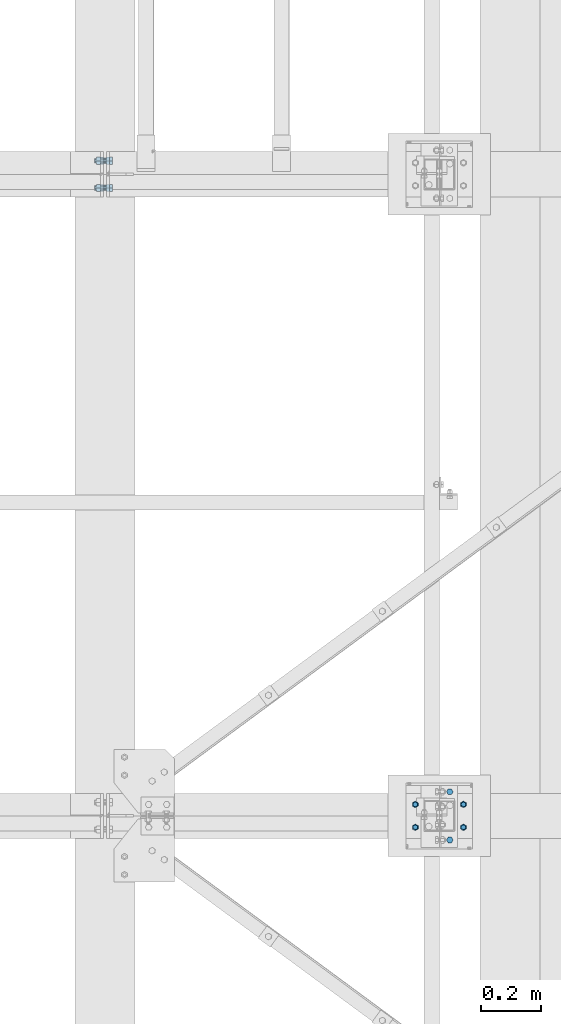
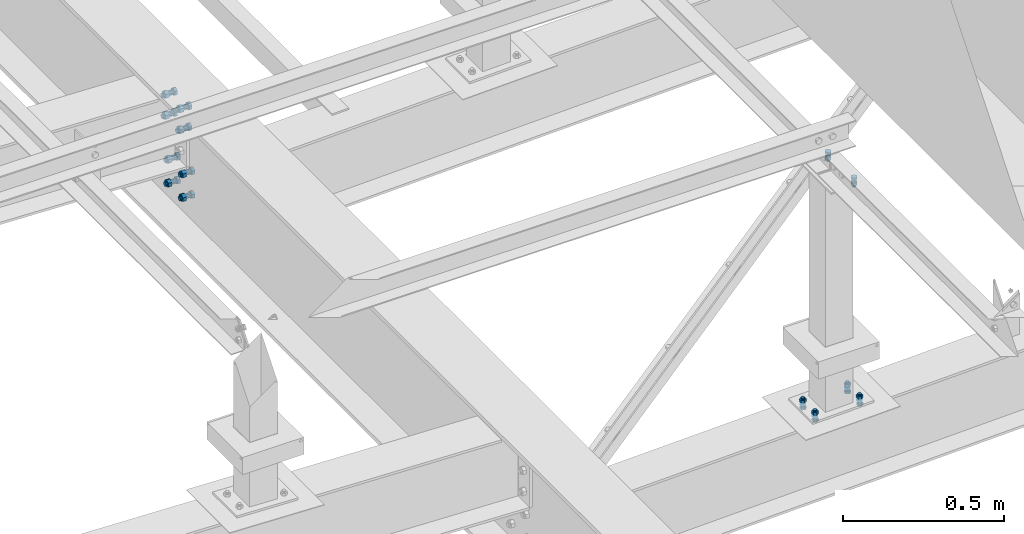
# One storey, part 54 of 3134: 7 mechanical fasteners, 4 elements without a shape of their own.
"""IFC2X3 building model written with IfcOpenShell, lengths in millimetres."""

from ifc_helpers import new_model, si_unit, frame, origin_with_axes, place, context, subcontext, project, spatial, faceted_brep, source, transform, mapped, material, type_object, element, aggregate, save


model = new_model("IFC2X3")

# Units and contexts
model_context = context("Model", 3, precision=1e-05, world=origin_with_axes())
body_context = subcontext(model_context, "Body", "Model", "MODEL_VIEW")
ifc_project = project(units=[si_unit("LENGTHUNIT", "METRE", prefix="MILLI"), si_unit("AREAUNIT", "SQUARE_METRE"), si_unit("VOLUMEUNIT", "CUBIC_METRE"), si_unit("MASSUNIT", "GRAM", prefix="KILO"), si_unit("TIMEUNIT", "SECOND"), si_unit("PLANEANGLEUNIT", "RADIAN"), si_unit("SOLIDANGLEUNIT", "STERADIAN"), si_unit("THERMODYNAMICTEMPERATUREUNIT", "DEGREE_CELSIUS"), si_unit("LUMINOUSINTENSITYUNIT", "LUMEN")], contexts=[model_context])

# Site, building, storey
site_placement = place(None, origin_with_axes())
site = spatial("IfcSite", under=ifc_project, at=site_placement, CompositionType="ELEMENT")
building_placement = place(site_placement, origin_with_axes())
building = spatial("IfcBuilding", under=site, at=building_placement, Name="Undefined", CompositionType="ELEMENT")
storey_placement = place(building_placement, origin_with_axes())
storey = spatial("IfcBuildingStorey", under=building, at=storey_placement, Name="Undefined", CompositionType="ELEMENT", Elevation=0.0)

# Assembly, mechanical fastener
assembly_1_placement = place(storey_placement, origin_with_axes())
assembly_1 = element("IfcElementAssembly", 1, at=assembly_1_placement, inside=storey, AssemblyPlace="NOTDEFINED", PredefinedType="RIGID_FRAME")
ifc_material = material(Name="8.8")
mechanical_fastener_type = type_object("IfcMechanicalFastenerType", Name="Bolt assembly")
shared_shape_1 = source(origin_with_axes(), body_context, "Body", "Brep", [
    faceted_brep([(10.9696551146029, -14.0, 0.0), (5.48482755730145, -14.0, 9.5), (-5.48482755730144, -14.0, 9.5), (-10.9696551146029, -14.0, 1.34339530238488e-15), (-5.48482755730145, -14.0, -9.5), (5.48482755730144, -14.0, -9.50000000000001), (5.48482755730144, -6.0, -9.50000000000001), (-5.48482755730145, -6.0, -9.5), (-10.9696551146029, -6.0, 1.34339530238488e-15), (-5.48482755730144, -6.0, 9.5), (5.48482755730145, -6.0, 9.5), (10.9696551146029, -6.0, 0.0), (6.0, -6.0, 0.0), (5.19615242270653, -6.0, 3.00000000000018), (2.99999999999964, -6.0, 5.19615242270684), (-6.21801588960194e-13, -6.0, 6.0), (-3.00000000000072, -6.0, 5.19615242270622), (-5.19615242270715, -6.0, 2.9999999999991), (-6.0, -6.0, -1.24360317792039e-12), (-5.19615242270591, -6.0, -3.00000000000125), (-2.99999999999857, -6.0, -5.19615242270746), (1.85874342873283e-12, -6.0, -6.0), (3.00000000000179, -6.0, -5.1961524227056), (5.19615242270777, -6.0, -2.99999999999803), (5.19615242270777, 24.0, -2.99999999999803), (3.00000000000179, 24.0, -5.1961524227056), (1.85874342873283e-12, 24.0, -6.0), (-2.99999999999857, 24.0, -5.19615242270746), (-5.19615242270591, 24.0, -3.00000000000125), (-6.0, 24.0, -1.24360317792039e-12), (-5.19615242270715, 24.0, 2.9999999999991), (-3.00000000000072, 24.0, 5.19615242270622), (-6.21801588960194e-13, 24.0, 6.0), (2.99999999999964, 24.0, 5.19615242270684), (5.19615242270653, 24.0, 3.00000000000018), (6.0, 24.0, 0.0), (10.9696551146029, 6.00000000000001, 0.0), (5.48482755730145, 6.00000000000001, 9.5), (-5.48482755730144, 6.00000000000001, 9.5), (-10.9696551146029, 6.00000000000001, 1.34339530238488e-15), (-5.48482755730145, 6.00000000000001, -9.5), (5.48482755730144, 6.00000000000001, -9.50000000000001), (5.48482755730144, 16.0, -9.50000000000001), (-5.48482755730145, 16.0, -9.5), (-10.9696551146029, 16.0, 1.34339530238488e-15), (-5.48482755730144, 16.0, 9.5), (5.48482755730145, 16.0, 9.5), (10.9696551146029, 16.0, 0.0)], [[[0, 1, 2, 3, 4, 5]], [[6, 7, 8, 9, 10, 11]], [[0, 11, 10, 1]], [[1, 10, 9, 2]], [[2, 9, 8, 3]], [[3, 8, 7, 4]], [[4, 7, 6, 5]], [[5, 6, 11, 0]], [[12, 13, 14, 15, 16, 17, 18, 19, 20, 21, 22, 23]], [[24, 25, 26, 27, 28, 29, 30, 31, 32, 33, 34, 35]], [[12, 35, 34, 13]], [[13, 34, 33, 14]], [[14, 33, 32, 15]], [[15, 32, 31, 16]], [[16, 31, 30, 17]], [[17, 30, 29, 18]], [[18, 29, 28, 19]], [[19, 28, 27, 20]], [[20, 27, 26, 21]], [[21, 26, 25, 22]], [[22, 25, 24, 23]], [[23, 24, 35, 12]], [[36, 37, 38, 39, 40, 41]], [[42, 43, 44, 45, 46, 47]], [[36, 47, 46, 37]], [[37, 46, 45, 38]], [[38, 45, 44, 39]], [[39, 44, 43, 40]], [[40, 43, 42, 41]], [[41, 42, 47, 36]]]),
    faceted_brep([(7.0, -0.1, 0.0), (6.06217782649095, -0.1, 3.50000000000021), (3.49999999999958, -0.1, 6.06217782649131), (-7.25435187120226e-13, -0.1, 7.0), (-3.50000000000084, -0.1, 6.06217782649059), (-6.06217782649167, -0.1, 3.49999999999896), (-7.0, -0.1, -1.45087037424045e-12), (-6.06217782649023, -0.1, -3.50000000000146), (-3.49999999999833, -0.1, -6.06217782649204), (2.1685340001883e-12, -0.1, -7.0), (3.50000000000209, -0.1, -6.06217782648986), (6.0621778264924, -0.1, -3.4999999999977), (6.0621778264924, 6.00000000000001, -3.4999999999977), (3.50000000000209, 6.00000000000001, -6.06217782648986), (2.1685340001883e-12, 6.00000000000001, -7.0), (-3.49999999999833, 6.00000000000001, -6.06217782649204), (-6.06217782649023, 6.00000000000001, -3.50000000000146), (-7.0, 6.00000000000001, -1.45087037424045e-12), (-6.06217782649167, 6.00000000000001, 3.49999999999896), (-3.50000000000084, 6.00000000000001, 6.06217782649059), (-7.25435187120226e-13, 6.00000000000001, 7.0), (3.49999999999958, 6.00000000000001, 6.06217782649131), (6.06217782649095, 6.00000000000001, 3.50000000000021), (7.0, 6.00000000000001, 0.0), (7.0, -5.9, 0.0), (6.06217782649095, -5.9, 3.50000000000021), (3.49999999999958, -5.9, 6.06217782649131), (-7.25435187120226e-13, -5.9, 7.0), (-3.50000000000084, -5.9, 6.06217782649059), (-6.06217782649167, -5.9, 3.49999999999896), (-7.0, -5.9, -1.45087037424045e-12), (-6.06217782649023, -5.9, -3.50000000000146), (-3.49999999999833, -5.9, -6.06217782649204), (2.1685340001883e-12, -5.9, -7.0), (3.50000000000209, -5.9, -6.06217782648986), (6.0621778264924, -5.9, -3.4999999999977), (6.0621778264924, 0.0999999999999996, -3.4999999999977), (3.50000000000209, 0.0999999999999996, -6.06217782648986), (2.1685340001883e-12, 0.0999999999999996, -7.0), (-3.49999999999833, 0.0999999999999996, -6.06217782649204), (-6.06217782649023, 0.0999999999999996, -3.50000000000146), (-7.0, 0.0999999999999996, -1.45087037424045e-12), (-6.06217782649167, 0.0999999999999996, 3.49999999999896), (-3.50000000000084, 0.0999999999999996, 6.06217782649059), (-7.25435187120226e-13, 0.0999999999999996, 7.0), (3.49999999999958, 0.0999999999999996, 6.06217782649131), (6.06217782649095, 0.0999999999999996, 3.50000000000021), (7.0, 0.0999999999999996, 0.0)], [[[0, 1, 2, 3, 4, 5, 6, 7, 8, 9, 10, 11]], [[12, 13, 14, 15, 16, 17, 18, 19, 20, 21, 22, 23]], [[0, 23, 22, 1]], [[1, 22, 21, 2]], [[2, 21, 20, 3]], [[3, 20, 19, 4]], [[4, 19, 18, 5]], [[5, 18, 17, 6]], [[6, 17, 16, 7]], [[7, 16, 15, 8]], [[8, 15, 14, 9]], [[9, 14, 13, 10]], [[10, 13, 12, 11]], [[11, 12, 23, 0]], [[24, 25, 26, 27, 28, 29, 30, 31, 32, 33, 34, 35]], [[36, 37, 38, 39, 40, 41, 42, 43, 44, 45, 46, 47]], [[24, 47, 46, 25]], [[25, 46, 45, 26]], [[26, 45, 44, 27]], [[27, 44, 43, 28]], [[28, 43, 42, 29]], [[29, 42, 41, 30]], [[30, 41, 40, 31]], [[31, 40, 39, 32]], [[32, 39, 38, 33]], [[33, 38, 37, 34]], [[34, 37, 36, 35]], [[35, 36, 47, 24]]]),
])
mechanical_fastener_1_placement = place(assembly_1_placement, frame((10440.0, 15190.0, 4265.0), z_axis=(0.0, -1.0, 0.0), x_axis=(-1.0, 0.0, 0.0)))
mechanical_fastener_1 = element("IfcMechanicalFastener", 2, at=mechanical_fastener_1_placement, type_object=mechanical_fastener_type, material=ifc_material, Name="Bolt assembly", NominalDiameter=12.0, NominalLength=30.0, context=body_context, shape_type="MappedRepresentation", body=[
    mapped(shared_shape_1, transform((0.0, -5.32963895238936e-10, -79.9999999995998))),
    mapped(shared_shape_1, transform((0.0, 5.3114490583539e-10, 79.9999999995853))),
])
aggregate(assembly_1, [mechanical_fastener_1])

# Assembly, mechanical fasteners
assembly_2_placement = place(storey_placement, origin_with_axes())
assembly_2 = element("IfcElementAssembly", 3, at=assembly_2_placement, inside=storey, Name="IPE500", AssemblyPlace="NOTDEFINED", PredefinedType="RIGID_FRAME")
shared_shape_2 = source(origin_with_axes(), body_context, "Body", "Brep", [
    faceted_brep([(13.856406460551, 0.0, 0.0), (6.92820323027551, 0.0, 12.0), (-6.92820323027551, 0.0, 12.0), (-13.856406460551, 0.0, 1.69692038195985e-15), (-6.92820323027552, 0.0, -12.0), (6.9282032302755, 0.0, -12.0), (6.9282032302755, 9.99999995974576, -12.0), (-6.92820323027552, 9.99999995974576, -12.0), (-13.856406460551, 9.99999995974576, 1.69692038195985e-15), (-6.92820323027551, 9.99999995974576, 12.0), (6.92820323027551, 9.99999995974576, 12.0), (13.856406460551, 9.99999995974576, 0.0), (8.0, 9.99999995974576, 0.0), (6.92820323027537, 9.99999995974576, 4.00000000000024), (3.99999999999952, 9.99999995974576, 6.92820323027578), (-8.29068785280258e-13, 9.99999995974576, 8.0), (-4.00000000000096, 9.99999995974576, 6.92820323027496), (-6.9282032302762, 9.99999995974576, 3.99999999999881), (-8.0, 9.99999995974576, -1.65813757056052e-12), (-6.92820323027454, 9.99999995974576, -4.00000000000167), (-3.99999999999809, 9.99999995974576, -6.92820323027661), (2.47832457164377e-12, 9.99999995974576, -8.0), (4.00000000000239, 9.99999995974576, -6.92820323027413), (6.92820323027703, 9.99999995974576, -3.99999999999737), (6.92820323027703, 49.9999999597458, -3.99999999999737), (4.00000000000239, 49.9999999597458, -6.92820323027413), (2.47832457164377e-12, 49.9999999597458, -8.0), (-3.99999999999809, 49.9999999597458, -6.92820323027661), (-6.92820323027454, 49.9999999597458, -4.00000000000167), (-8.0, 49.9999999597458, -1.65813757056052e-12), (-6.9282032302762, 49.9999999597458, 3.99999999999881), (-4.00000000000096, 49.9999999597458, 6.92820323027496), (-8.29068785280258e-13, 49.9999999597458, 8.0), (3.99999999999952, 49.9999999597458, 6.92820323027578), (6.92820323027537, 49.9999999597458, 4.00000000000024), (8.0, 49.9999999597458, 0.0), (13.856406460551, 30.1999997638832, 0.0), (6.92820323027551, 30.1999997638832, 12.0), (-6.92820323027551, 30.1999997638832, 12.0), (-13.856406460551, 30.1999997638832, 1.69692038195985e-15), (-6.92820323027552, 30.1999997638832, -12.0), (6.9282032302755, 30.1999997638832, -12.0), (6.9282032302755, 43.1999997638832, -12.0), (-6.92820323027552, 43.1999997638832, -12.0), (-13.856406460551, 43.1999997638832, 1.69692038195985e-15), (-6.92820323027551, 43.1999997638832, 12.0), (6.92820323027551, 43.1999997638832, 12.0), (13.856406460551, 43.1999997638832, 0.0)], [[[0, 1, 2, 3, 4, 5]], [[6, 7, 8, 9, 10, 11]], [[0, 11, 10, 1]], [[1, 10, 9, 2]], [[2, 9, 8, 3]], [[3, 8, 7, 4]], [[4, 7, 6, 5]], [[5, 6, 11, 0]], [[12, 13, 14, 15, 16, 17, 18, 19, 20, 21, 22, 23]], [[24, 25, 26, 27, 28, 29, 30, 31, 32, 33, 34, 35]], [[12, 35, 34, 13]], [[13, 34, 33, 14]], [[14, 33, 32, 15]], [[15, 32, 31, 16]], [[16, 31, 30, 17]], [[17, 30, 29, 18]], [[18, 29, 28, 19]], [[19, 28, 27, 20]], [[20, 27, 26, 21]], [[21, 26, 25, 22]], [[22, 25, 24, 23]], [[23, 24, 35, 12]], [[36, 37, 38, 39, 40, 41]], [[42, 43, 44, 45, 46, 47]], [[36, 47, 46, 37]], [[37, 46, 45, 38]], [[38, 45, 44, 39]], [[39, 44, 43, 40]], [[40, 43, 42, 41]], [[41, 42, 47, 36]]]),
    faceted_brep([(9.0, 20.0999997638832, 0.0), (7.79422863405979, 20.0999997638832, 4.50000000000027), (4.49999999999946, 20.0999997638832, 7.79422863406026), (-9.3270238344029e-13, 20.0999997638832, 9.0), (-4.50000000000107, 20.0999997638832, 7.79422863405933), (-7.79422863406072, 20.0999997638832, 4.49999999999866), (-9.0, 20.0999997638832, -1.86540476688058e-12), (-7.79422863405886, 20.0999997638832, -4.50000000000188), (-4.49999999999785, 20.0999997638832, -7.79422863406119), (2.78811514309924e-12, 20.0999997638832, -9.0), (4.50000000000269, 20.0999997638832, -7.7942286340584), (7.79422863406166, 20.0999997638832, -4.49999999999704), (7.79422863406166, 30.1999997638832, -4.49999999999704), (4.50000000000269, 30.1999997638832, -7.7942286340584), (2.78811514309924e-12, 30.1999997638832, -9.0), (-4.49999999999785, 30.1999997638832, -7.79422863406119), (-7.79422863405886, 30.1999997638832, -4.50000000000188), (-9.0, 30.1999997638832, -1.86540476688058e-12), (-7.79422863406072, 30.1999997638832, 4.49999999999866), (-4.50000000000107, 30.1999997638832, 7.79422863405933), (-9.3270238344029e-13, 30.1999997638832, 9.0), (4.49999999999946, 30.1999997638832, 7.79422863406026), (7.79422863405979, 30.1999997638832, 4.50000000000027), (9.0, 30.1999997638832, 0.0), (9.0, 10.1000023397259, 0.0), (7.79422863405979, 10.1000023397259, 4.50000000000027), (4.49999999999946, 10.1000023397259, 7.79422863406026), (-9.3270238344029e-13, 10.1000023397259, 9.0), (-4.50000000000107, 10.1000023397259, 7.79422863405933), (-7.79422863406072, 10.1000023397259, 4.49999999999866), (-9.0, 10.1000023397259, -1.86540476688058e-12), (-7.79422863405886, 10.1000023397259, -4.50000000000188), (-4.49999999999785, 10.1000023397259, -7.79422863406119), (2.78811514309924e-12, 10.1000023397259, -9.0), (4.50000000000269, 10.1000023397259, -7.7942286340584), (7.79422863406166, 10.1000023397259, -4.49999999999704), (7.79422863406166, 20.2999997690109, -4.49999999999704), (4.50000000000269, 20.2999997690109, -7.7942286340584), (2.78811514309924e-12, 20.2999997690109, -9.0), (-4.49999999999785, 20.2999997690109, -7.79422863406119), (-7.79422863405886, 20.2999997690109, -4.50000000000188), (-9.0, 20.2999997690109, -1.86540476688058e-12), (-7.79422863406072, 20.2999997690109, 4.49999999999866), (-4.50000000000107, 20.2999997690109, 7.79422863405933), (-9.3270238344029e-13, 20.2999997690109, 9.0), (4.49999999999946, 20.2999997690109, 7.79422863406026), (7.79422863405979, 20.2999997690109, 4.50000000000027), (9.0, 20.2999997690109, 0.0)], [[[0, 1, 2, 3, 4, 5, 6, 7, 8, 9, 10, 11]], [[12, 13, 14, 15, 16, 17, 18, 19, 20, 21, 22, 23]], [[0, 23, 22, 1]], [[1, 22, 21, 2]], [[2, 21, 20, 3]], [[3, 20, 19, 4]], [[4, 19, 18, 5]], [[5, 18, 17, 6]], [[6, 17, 16, 7]], [[7, 16, 15, 8]], [[8, 15, 14, 9]], [[9, 14, 13, 10]], [[10, 13, 12, 11]], [[11, 12, 23, 0]], [[24, 25, 26, 27, 28, 29, 30, 31, 32, 33, 34, 35]], [[36, 37, 38, 39, 40, 41, 42, 43, 44, 45, 46, 47]], [[24, 47, 46, 25]], [[25, 46, 45, 26]], [[26, 45, 44, 27]], [[27, 44, 43, 28]], [[28, 43, 42, 29]], [[29, 42, 41, 30]], [[30, 41, 40, 31]], [[31, 40, 39, 32]], [[32, 39, 38, 33]], [[33, 38, 37, 34]], [[34, 37, 36, 35]], [[35, 36, 47, 24]]]),
])
mechanical_fastener_2_placement = place(assembly_2_placement, frame((9310.09999986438, 17275.0, 3631.67000001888), z_axis=(0.0, 1.0, 0.0), x_axis=(0.0, 0.0, -1.0)))
mechanical_fastener_2 = element("IfcMechanicalFastener", 4, at=mechanical_fastener_2_placement, type_object=mechanical_fastener_type, material=ifc_material, Name="Bolt assembly", NominalDiameter=16.0, NominalLength=40.0, context=body_context, shape_type="MappedRepresentation", body=[
    mapped(shared_shape_2, transform((0.0, 0.0, 0.0))),
    mapped(shared_shape_2, transform((80.0, 0.0, 0.0))),
])
mechanical_fastener_3_placement = place(assembly_2_placement, frame((9310.09999986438, 17365.0, 3631.67000001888), z_axis=(0.0, 1.0, 0.0), x_axis=(0.0, 0.0, -1.0)))
mechanical_fastener_3 = element("IfcMechanicalFastener", 5, at=mechanical_fastener_3_placement, type_object=mechanical_fastener_type, material=ifc_material, Name="Bolt assembly", NominalDiameter=16.0, NominalLength=40.0, context=body_context, shape_type="MappedRepresentation", body=[
    mapped(shared_shape_2, transform((0.0, 0.0, 0.0))),
    mapped(shared_shape_2, transform((80.0, 0.0, 0.0))),
])
shared_shape_3 = source(origin_with_axes(), body_context, "Body", "Brep", [
    faceted_brep([(13.856406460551, -10.0, 0.0), (6.92820323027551, -10.0, 12.0), (-6.92820323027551, -10.0, 12.0), (-13.856406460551, -10.0, 1.69692038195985e-15), (-6.92820323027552, -10.0, -12.0), (6.9282032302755, -10.0, -12.0), (6.9282032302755, 0.0, -12.0), (-6.92820323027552, 0.0, -12.0), (-13.856406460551, 0.0, 1.69692038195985e-15), (-6.92820323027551, 0.0, 12.0), (6.92820323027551, 0.0, 12.0), (13.856406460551, 0.0, 0.0), (8.0, 0.0, 0.0), (6.92820323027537, 0.0, 4.00000000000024), (3.99999999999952, 0.0, 6.92820323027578), (-8.29068785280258e-13, 0.0, 8.0), (-4.00000000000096, 0.0, 6.92820323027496), (-6.9282032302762, 0.0, 3.99999999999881), (-8.0, 0.0, -1.65813757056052e-12), (-6.92820323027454, 0.0, -4.00000000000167), (-3.99999999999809, 0.0, -6.92820323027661), (2.47832457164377e-12, 0.0, -8.0), (4.00000000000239, 0.0, -6.92820323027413), (6.92820323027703, 0.0, -3.99999999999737), (6.92820323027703, 40.0, -3.99999999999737), (4.00000000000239, 40.0, -6.92820323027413), (2.47832457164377e-12, 40.0, -8.0), (-3.99999999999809, 40.0, -6.92820323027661), (-6.92820323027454, 40.0, -4.00000000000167), (-8.0, 40.0, -1.65813757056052e-12), (-6.9282032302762, 40.0, 3.99999999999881), (-4.00000000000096, 40.0, 6.92820323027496), (-8.29068785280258e-13, 40.0, 8.0), (3.99999999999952, 40.0, 6.92820323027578), (6.92820323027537, 40.0, 4.00000000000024), (8.0, 40.0, 0.0), (13.856406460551, 20.1999997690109, 0.0), (6.92820323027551, 20.1999997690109, 12.0), (-6.92820323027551, 20.1999997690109, 12.0), (-13.856406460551, 20.1999997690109, 1.69692038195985e-15), (-6.92820323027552, 20.1999997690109, -12.0), (6.9282032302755, 20.1999997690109, -12.0), (6.9282032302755, 33.1999997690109, -12.0), (-6.92820323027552, 33.1999997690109, -12.0), (-13.856406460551, 33.1999997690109, 1.69692038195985e-15), (-6.92820323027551, 33.1999997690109, 12.0), (6.92820323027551, 33.1999997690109, 12.0), (13.856406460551, 33.1999997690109, 0.0)], [[[0, 1, 2, 3, 4, 5]], [[6, 7, 8, 9, 10, 11]], [[0, 11, 10, 1]], [[1, 10, 9, 2]], [[2, 9, 8, 3]], [[3, 8, 7, 4]], [[4, 7, 6, 5]], [[5, 6, 11, 0]], [[12, 13, 14, 15, 16, 17, 18, 19, 20, 21, 22, 23]], [[24, 25, 26, 27, 28, 29, 30, 31, 32, 33, 34, 35]], [[12, 35, 34, 13]], [[13, 34, 33, 14]], [[14, 33, 32, 15]], [[15, 32, 31, 16]], [[16, 31, 30, 17]], [[17, 30, 29, 18]], [[18, 29, 28, 19]], [[19, 28, 27, 20]], [[20, 27, 26, 21]], [[21, 26, 25, 22]], [[22, 25, 24, 23]], [[23, 24, 35, 12]], [[36, 37, 38, 39, 40, 41]], [[42, 43, 44, 45, 46, 47]], [[36, 47, 46, 37]], [[37, 46, 45, 38]], [[38, 45, 44, 39]], [[39, 44, 43, 40]], [[40, 43, 42, 41]], [[41, 42, 47, 36]]]),
    faceted_brep([(9.0, 0.100000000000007, 0.0), (7.79422863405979, 0.100000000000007, 4.50000000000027), (4.49999999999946, 0.100000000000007, 7.79422863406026), (-9.3270238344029e-13, 0.100000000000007, 9.0), (-4.50000000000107, 0.100000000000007, 7.79422863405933), (-7.79422863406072, 0.100000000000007, 4.49999999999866), (-9.0, 0.100000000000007, -1.86540476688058e-12), (-7.79422863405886, 0.100000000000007, -4.50000000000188), (-4.49999999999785, 0.100000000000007, -7.79422863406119), (2.78811514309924e-12, 0.100000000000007, -9.0), (4.50000000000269, 0.100000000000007, -7.7942286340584), (7.79422863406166, 0.100000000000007, -4.49999999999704), (7.79422863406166, 10.1000023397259, -4.49999999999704), (4.50000000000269, 10.1000023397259, -7.7942286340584), (2.78811514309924e-12, 10.1000023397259, -9.0), (-4.49999999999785, 10.1000023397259, -7.79422863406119), (-7.79422863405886, 10.1000023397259, -4.50000000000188), (-9.0, 10.1000023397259, -1.86540476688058e-12), (-7.79422863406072, 10.1000023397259, 4.49999999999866), (-4.50000000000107, 10.1000023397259, 7.79422863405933), (-9.3270238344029e-13, 10.1000023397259, 9.0), (4.49999999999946, 10.1000023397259, 7.79422863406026), (7.79422863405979, 10.1000023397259, 4.50000000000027), (9.0, 10.1000023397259, 0.0), (9.0, 9.89999999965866, 0.0), (7.79422863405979, 9.89999999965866, 4.50000000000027), (4.49999999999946, 9.89999999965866, 7.79422863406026), (-9.3270238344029e-13, 9.89999999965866, 9.0), (-4.50000000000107, 9.89999999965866, 7.79422863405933), (-7.79422863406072, 9.89999999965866, 4.49999999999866), (-9.0, 9.89999999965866, -1.86540476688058e-12), (-7.79422863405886, 9.89999999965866, -4.50000000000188), (-4.49999999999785, 9.89999999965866, -7.79422863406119), (2.78811514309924e-12, 9.89999999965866, -9.0), (4.50000000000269, 9.89999999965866, -7.7942286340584), (7.79422863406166, 9.89999999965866, -4.49999999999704), (7.79422863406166, 20.1999997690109, -4.49999999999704), (4.50000000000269, 20.1999997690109, -7.7942286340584), (2.78811514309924e-12, 20.1999997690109, -9.0), (-4.49999999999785, 20.1999997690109, -7.79422863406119), (-7.79422863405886, 20.1999997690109, -4.50000000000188), (-9.0, 20.1999997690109, -1.86540476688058e-12), (-7.79422863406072, 20.1999997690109, 4.49999999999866), (-4.50000000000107, 20.1999997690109, 7.79422863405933), (-9.3270238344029e-13, 20.1999997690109, 9.0), (4.49999999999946, 20.1999997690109, 7.79422863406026), (7.79422863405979, 20.1999997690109, 4.50000000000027), (9.0, 20.1999997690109, 0.0)], [[[0, 1, 2, 3, 4, 5, 6, 7, 8, 9, 10, 11]], [[12, 13, 14, 15, 16, 17, 18, 19, 20, 21, 22, 23]], [[0, 23, 22, 1]], [[1, 22, 21, 2]], [[2, 21, 20, 3]], [[3, 20, 19, 4]], [[4, 19, 18, 5]], [[5, 18, 17, 6]], [[6, 17, 16, 7]], [[7, 16, 15, 8]], [[8, 15, 14, 9]], [[9, 14, 13, 10]], [[10, 13, 12, 11]], [[11, 12, 23, 0]], [[24, 25, 26, 27, 28, 29, 30, 31, 32, 33, 34, 35]], [[36, 37, 38, 39, 40, 41, 42, 43, 44, 45, 46, 47]], [[24, 47, 46, 25]], [[25, 46, 45, 26]], [[26, 45, 44, 27]], [[27, 44, 43, 28]], [[28, 43, 42, 29]], [[29, 42, 41, 30]], [[30, 41, 40, 31]], [[31, 40, 39, 32]], [[32, 39, 38, 33]], [[33, 38, 37, 34]], [[34, 37, 36, 35]], [[35, 36, 47, 24]]]),
])
mechanical_fastener_4_placement = place(assembly_2_placement, frame((9310.09999986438, 17275.0, 3381.67000001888), z_axis=(0.0, 1.0, 0.0), x_axis=(0.0, 0.0, -1.0)))
mechanical_fastener_4 = element("IfcMechanicalFastener", 6, at=mechanical_fastener_4_placement, type_object=mechanical_fastener_type, material=ifc_material, Name="Bolt assembly", NominalDiameter=16.0, NominalLength=40.0, context=body_context, shape_type="MappedRepresentation", body=[
    mapped(shared_shape_3, transform((0.0, 0.0, 0.0))),
    mapped(shared_shape_3, transform((90.0, 0.0, 0.0))),
])
mechanical_fastener_5_placement = place(assembly_2_placement, frame((9310.09999986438, 17365.0, 3381.67000001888), z_axis=(0.0, 1.0, 0.0), x_axis=(0.0, 0.0, -1.0)))
mechanical_fastener_5 = element("IfcMechanicalFastener", 7, at=mechanical_fastener_5_placement, type_object=mechanical_fastener_type, material=ifc_material, Name="Bolt assembly", NominalDiameter=16.0, NominalLength=40.0, context=body_context, shape_type="MappedRepresentation", body=[
    mapped(shared_shape_3, transform((0.0, 0.0, 0.0))),
    mapped(shared_shape_3, transform((90.0, 0.0, 0.0))),
])
aggregate(assembly_2, [mechanical_fastener_2, mechanical_fastener_3, mechanical_fastener_4, mechanical_fastener_5])

# Assembly, mechanical fastener
assembly_3_placement = place(storey_placement, origin_with_axes())
assembly_3 = element("IfcElementAssembly", 8, at=assembly_3_placement, inside=storey, Name="300", AssemblyPlace="NOTDEFINED", PredefinedType="RIGID_FRAME")
shared_shape_4 = source(origin_with_axes(), body_context, "Body", "Brep", [
    faceted_brep([(10.9696551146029, -4.1984682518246, 0.0), (5.48482755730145, -4.1984682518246, 9.5), (-5.48482755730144, -4.1984682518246, 9.5), (-10.9696551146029, -4.1984682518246, 1.34339530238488e-15), (-5.48482755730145, -4.1984682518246, -9.5), (5.48482755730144, -4.1984682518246, -9.50000000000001), (5.48482755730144, 3.8015317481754, -9.50000000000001), (-5.48482755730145, 3.8015317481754, -9.5), (-10.9696551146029, 3.8015317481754, 1.34339530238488e-15), (-5.48482755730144, 3.8015317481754, 9.5), (5.48482755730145, 3.8015317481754, 9.5), (10.9696551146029, 3.8015317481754, 0.0), (6.0, 3.8015317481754, 0.0), (5.19615242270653, 3.8015317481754, 3.00000000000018), (2.99999999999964, 3.8015317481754, 5.19615242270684), (-6.21801588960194e-13, 3.8015317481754, 6.0), (-3.00000000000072, 3.8015317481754, 5.19615242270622), (-5.19615242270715, 3.8015317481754, 2.9999999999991), (-6.0, 3.8015317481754, -1.24360317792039e-12), (-5.19615242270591, 3.8015317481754, -3.00000000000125), (-2.99999999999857, 3.8015317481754, -5.19615242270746), (1.85874342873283e-12, 3.8015317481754, -6.0), (3.00000000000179, 3.8015317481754, -5.1961524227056), (5.19615242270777, 3.8015317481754, -2.99999999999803), (5.19615242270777, 38.8015317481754, -2.99999999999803), (3.00000000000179, 38.8015317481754, -5.1961524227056), (1.85874342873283e-12, 38.8015317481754, -6.0), (-2.99999999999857, 38.8015317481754, -5.19615242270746), (-5.19615242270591, 38.8015317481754, -3.00000000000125), (-6.0, 38.8015317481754, -1.24360317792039e-12), (-5.19615242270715, 38.8015317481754, 2.9999999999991), (-3.00000000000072, 38.8015317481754, 5.19615242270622), (-6.21801588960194e-13, 38.8015317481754, 6.0), (2.99999999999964, 38.8015317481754, 5.19615242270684), (5.19615242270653, 38.8015317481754, 3.00000000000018), (6.0, 38.8015317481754, 0.0), (10.9696551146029, 23.0039050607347, 0.0), (5.48482755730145, 23.0039050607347, 9.5), (-5.48482755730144, 23.0039050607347, 9.5), (-10.9696551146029, 23.0039050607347, 1.34339530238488e-15), (-5.48482755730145, 23.0039050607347, -9.5), (5.48482755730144, 23.0039050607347, -9.50000000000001), (5.48482755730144, 33.0039050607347, -9.50000000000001), (-5.48482755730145, 33.0039050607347, -9.5), (-10.9696551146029, 33.0039050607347, 1.34339530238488e-15), (-5.48482755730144, 33.0039050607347, 9.5), (5.48482755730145, 33.0039050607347, 9.5), (10.9696551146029, 33.0039050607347, 0.0)], [[[0, 1, 2, 3, 4, 5]], [[6, 7, 8, 9, 10, 11]], [[0, 11, 10, 1]], [[1, 10, 9, 2]], [[2, 9, 8, 3]], [[3, 8, 7, 4]], [[4, 7, 6, 5]], [[5, 6, 11, 0]], [[12, 13, 14, 15, 16, 17, 18, 19, 20, 21, 22, 23]], [[24, 25, 26, 27, 28, 29, 30, 31, 32, 33, 34, 35]], [[12, 35, 34, 13]], [[13, 34, 33, 14]], [[14, 33, 32, 15]], [[15, 32, 31, 16]], [[16, 31, 30, 17]], [[17, 30, 29, 18]], [[18, 29, 28, 19]], [[19, 28, 27, 20]], [[20, 27, 26, 21]], [[21, 26, 25, 22]], [[22, 25, 24, 23]], [[23, 24, 35, 12]], [[36, 37, 38, 39, 40, 41]], [[42, 43, 44, 45, 46, 47]], [[36, 47, 46, 37]], [[37, 46, 45, 38]], [[38, 45, 44, 39]], [[39, 44, 43, 40]], [[40, 43, 42, 41]], [[41, 42, 47, 36]]]),
    faceted_brep([(7.0, 14.9039050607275, 0.0), (6.06217782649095, 14.9039050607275, 3.50000000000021), (3.49999999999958, 14.9039050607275, 6.06217782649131), (-7.25435187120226e-13, 14.9039050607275, 7.0), (-3.50000000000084, 14.9039050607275, 6.06217782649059), (-6.06217782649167, 14.9039050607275, 3.49999999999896), (-7.0, 14.9039050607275, -1.45087037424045e-12), (-6.06217782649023, 14.9039050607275, -3.50000000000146), (-3.49999999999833, 14.9039050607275, -6.06217782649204), (2.1685340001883e-12, 14.9039050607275, -7.0), (3.50000000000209, 14.9039050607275, -6.06217782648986), (6.0621778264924, 14.9039050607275, -3.4999999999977), (6.0621778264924, 23.0039050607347, -3.4999999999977), (3.50000000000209, 23.0039050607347, -6.06217782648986), (2.1685340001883e-12, 23.0039050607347, -7.0), (-3.49999999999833, 23.0039050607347, -6.06217782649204), (-6.06217782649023, 23.0039050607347, -3.50000000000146), (-7.0, 23.0039050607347, -1.45087037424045e-12), (-6.06217782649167, 23.0039050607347, 3.49999999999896), (-3.50000000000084, 23.0039050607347, 6.06217782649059), (-7.25435187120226e-13, 23.0039050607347, 7.0), (3.49999999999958, 23.0039050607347, 6.06217782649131), (6.06217782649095, 23.0039050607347, 3.50000000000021), (7.0, 23.0039050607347, 0.0), (7.0, 3.9015317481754, 0.0), (6.06217782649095, 3.9015317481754, 3.50000000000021), (3.49999999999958, 3.9015317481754, 6.06217782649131), (-7.25435187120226e-13, 3.9015317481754, 7.0), (-3.50000000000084, 3.9015317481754, 6.06217782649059), (-6.06217782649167, 3.9015317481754, 3.49999999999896), (-7.0, 3.9015317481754, -1.45087037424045e-12), (-6.06217782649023, 3.9015317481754, -3.50000000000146), (-3.49999999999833, 3.9015317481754, -6.06217782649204), (2.1685340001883e-12, 3.9015317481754, -7.0), (3.50000000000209, 3.9015317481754, -6.06217782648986), (6.0621778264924, 3.9015317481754, -3.4999999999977), (6.0621778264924, 13.1015315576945, -3.4999999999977), (3.50000000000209, 13.1015315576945, -6.06217782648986), (2.1685340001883e-12, 13.1015315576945, -7.0), (-3.49999999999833, 13.1015315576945, -6.06217782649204), (-6.06217782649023, 13.1015315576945, -3.50000000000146), (-7.0, 13.1015315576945, -1.45087037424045e-12), (-6.06217782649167, 13.1015315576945, 3.49999999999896), (-3.50000000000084, 13.1015315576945, 6.06217782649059), (-7.25435187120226e-13, 13.1015315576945, 7.0), (3.49999999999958, 13.1015315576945, 6.06217782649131), (6.06217782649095, 13.1015315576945, 3.50000000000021), (7.0, 13.1015315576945, 0.0)], [[[0, 1, 2, 3, 4, 5, 6, 7, 8, 9, 10, 11]], [[12, 13, 14, 15, 16, 17, 18, 19, 20, 21, 22, 23]], [[0, 23, 22, 1]], [[1, 22, 21, 2]], [[2, 21, 20, 3]], [[3, 20, 19, 4]], [[4, 19, 18, 5]], [[5, 18, 17, 6]], [[6, 17, 16, 7]], [[7, 16, 15, 8]], [[8, 15, 14, 9]], [[9, 14, 13, 10]], [[10, 13, 12, 11]], [[11, 12, 23, 0]], [[24, 25, 26, 27, 28, 29, 30, 31, 32, 33, 34, 35]], [[36, 37, 38, 39, 40, 41, 42, 43, 44, 45, 46, 47]], [[24, 47, 46, 25]], [[25, 46, 45, 26]], [[26, 45, 44, 27]], [[27, 44, 43, 28]], [[28, 43, 42, 29]], [[29, 42, 41, 30]], [[30, 41, 40, 31]], [[31, 40, 39, 32]], [[32, 39, 38, 33]], [[33, 38, 37, 34]], [[34, 37, 36, 35]], [[35, 36, 47, 24]]]),
])
mechanical_fastener_6_placement = place(assembly_3_placement, frame((10405.7748812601, 15152.0, 3374.2272055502), z_axis=(0.999519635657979, 0.0, 0.0309919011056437), x_axis=(0.0, 1.0, 0.0)))
mechanical_fastener_6 = element("IfcMechanicalFastener", 9, at=mechanical_fastener_6_placement, type_object=mechanical_fastener_type, material=ifc_material, Name="Bolt assembly", NominalDiameter=12.0, NominalLength=35.0, context=body_context, shape_type="MappedRepresentation", body=[
    mapped(shared_shape_4, transform((0.0, -5.32963895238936e-10, -79.9999999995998))),
    mapped(shared_shape_4, transform((76.0, -5.32963895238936e-10, -79.9999999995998))),
    mapped(shared_shape_4, transform((0.0, 5.3114490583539e-10, 79.9999999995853))),
    mapped(shared_shape_4, transform((76.0, 5.3114490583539e-10, 79.9999999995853))),
])
aggregate(assembly_3, [mechanical_fastener_6])

assembly_4_placement = place(storey_placement, origin_with_axes())
assembly_4 = element("IfcElementAssembly", 10, at=assembly_4_placement, inside=storey, AssemblyPlace="NOTDEFINED", PredefinedType="RIGID_FRAME")
shared_shape_5 = source(origin_with_axes(), body_context, "Body", "Brep", [
    faceted_brep([(7.0, 13.0000253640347, 0.0), (6.06217782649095, 13.0000253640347, 3.50000000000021), (3.49999999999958, 13.0000253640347, 6.06217782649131), (-7.25435187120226e-13, 13.0000253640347, 7.0), (-3.50000000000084, 13.0000253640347, 6.06217782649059), (-6.06217782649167, 13.0000253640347, 3.49999999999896), (-7.0, 13.0000253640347, -1.45087037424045e-12), (-6.06217782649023, 13.0000253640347, -3.50000000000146), (-3.49999999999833, 13.0000253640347, -6.06217782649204), (2.1685340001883e-12, 13.0000253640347, -7.0), (3.50000000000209, 13.0000253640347, -6.06217782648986), (6.0621778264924, 13.0000253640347, -3.4999999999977), (6.0621778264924, 15.0999999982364, -3.4999999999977), (3.50000000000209, 15.0999999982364, -6.06217782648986), (2.1685340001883e-12, 15.0999999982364, -7.0), (-3.49999999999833, 15.0999999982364, -6.06217782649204), (-6.06217782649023, 15.0999999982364, -3.50000000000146), (-7.0, 15.0999999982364, -1.45087037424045e-12), (-6.06217782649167, 15.0999999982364, 3.49999999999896), (-3.50000000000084, 15.0999999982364, 6.06217782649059), (-7.25435187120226e-13, 15.0999999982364, 7.0), (3.49999999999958, 15.0999999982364, 6.06217782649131), (6.06217782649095, 15.0999999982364, 3.50000000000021), (7.0, 15.0999999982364, 0.0)], [[[0, 1, 2, 3, 4, 5, 6, 7, 8, 9, 10, 11]], [[12, 13, 14, 15, 16, 17, 18, 19, 20, 21, 22, 23]], [[0, 23, 22, 1]], [[1, 22, 21, 2]], [[2, 21, 20, 3]], [[3, 20, 19, 4]], [[4, 19, 18, 5]], [[5, 18, 17, 6]], [[6, 17, 16, 7]], [[7, 16, 15, 8]], [[8, 15, 14, 9]], [[9, 14, 13, 10]], [[10, 13, 12, 11]], [[11, 12, 23, 0]]]),
])
mechanical_fastener_7_placement = place(assembly_4_placement, frame((10405.7748812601, 15152.0, 3374.2272055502), z_axis=(0.999519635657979, 0.0, 0.0309919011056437), x_axis=(0.0, 1.0, 0.0)))
mechanical_fastener_7 = element("IfcMechanicalFastener", 11, at=mechanical_fastener_7_placement, type_object=mechanical_fastener_type, material=ifc_material, Name="Bolt assembly", NominalDiameter=12.0, NominalLength=2.0, context=body_context, shape_type="MappedRepresentation", body=[
    mapped(shared_shape_5, transform((0.0, -5.32963895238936e-10, -79.9999999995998))),
    mapped(shared_shape_5, transform((76.0, -5.32963895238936e-10, -79.9999999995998))),
    mapped(shared_shape_5, transform((0.0, 5.3114490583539e-10, 79.9999999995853))),
    mapped(shared_shape_5, transform((76.0, 5.3114490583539e-10, 79.9999999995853))),
])
aggregate(assembly_4, [mechanical_fastener_7])

save(model, "model.ifc")
